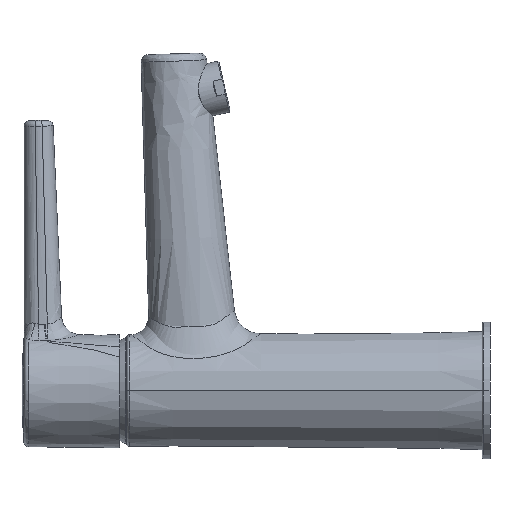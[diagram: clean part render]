
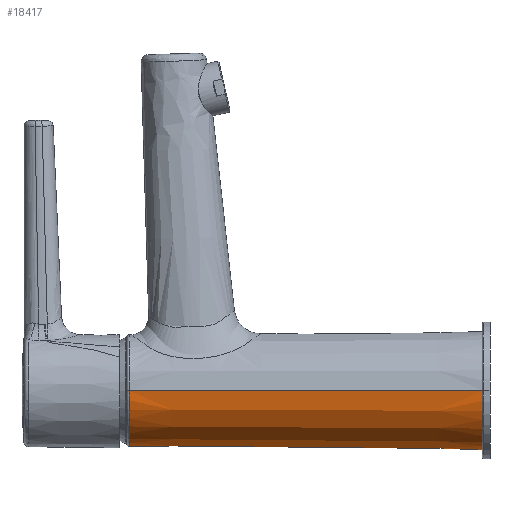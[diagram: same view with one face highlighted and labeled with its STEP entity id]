
A CAD part, left-side view. The second image highlights one B-rep face of the part: STEP entity #18417.
In plain terms, the highlighted conical face has half-angle 0.529 degrees and reference radius 21.879 mm.
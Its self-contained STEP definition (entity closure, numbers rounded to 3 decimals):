
#26=CARTESIAN_POINT('',(0.,0.,0.));
#27=DIRECTION('',(0.,1.,0.));
#28=DIRECTION('',(1.,0.,0.));
#29=AXIS2_PLACEMENT_3D('',#26,#27,#28);
#31=DIRECTION('',(0.009,-1.,0.));
#32=VECTOR('',#31,134.543);
#33=CARTESIAN_POINT('',(21.257,134.537,0.));
#34=LINE('',#33,#32);
#35=CARTESIAN_POINT('',(0.,134.537,0.));
#36=DIRECTION('',(0.,-1.,0.));
#37=DIRECTION('',(-1.,0.,0.));
#38=AXIS2_PLACEMENT_3D('',#35,#36,#37);
#40=DIRECTION('',(-0.009,-1.,0.));
#41=VECTOR('',#40,134.543);
#42=CARTESIAN_POINT('',(-21.257,134.537,
0.));
#43=LINE('',#42,#41);
#18161=CARTESIAN_POINT('',(-21.257,134.537,0.));
#18162=CARTESIAN_POINT('',(21.257,134.537,0.));
#18163=VERTEX_POINT('',#18161);
#18164=VERTEX_POINT('',#18162);
#18366=CARTESIAN_POINT('',(-22.5,0.,0.));
#18367=CARTESIAN_POINT('',(22.5,0.,0.));
#18368=VERTEX_POINT('',#18366);
#18369=VERTEX_POINT('',#18367);
#18403=CARTESIAN_POINT('',(0.,67.269,0.));
#18404=DIRECTION('',(0.,-1.,0.));
#18405=DIRECTION('',(-1.,0.,0.));
#18406=AXIS2_PLACEMENT_3D('',#18403,#18404,#18405);
#18407=CONICAL_SURFACE('',#18406,21.879,0.529);
#18409=ORIENTED_EDGE('',*,*,#18408,.F.);
#18411=ORIENTED_EDGE('',*,*,#18410,.F.);
#18412=ORIENTED_EDGE('',*,*,#18393,.F.);
#18414=ORIENTED_EDGE('',*,*,#18413,.T.);
#18415=EDGE_LOOP('',(#18409,#18411,#18412,#18414));
#18416=FACE_OUTER_BOUND('',#18415,.F.);
#18417=ADVANCED_FACE('',(#18416),#18407,.T.);
#30=CIRCLE('',#29,22.5);
#39=CIRCLE('',#38,21.257);
#18393=EDGE_CURVE('',#18163,#18164,#39,.T.);
#18408=EDGE_CURVE('',#18369,#18368,#30,.T.);
#18410=EDGE_CURVE('',#18164,#18369,#34,.T.);
#18413=EDGE_CURVE('',#18163,#18368,#43,.T.);
